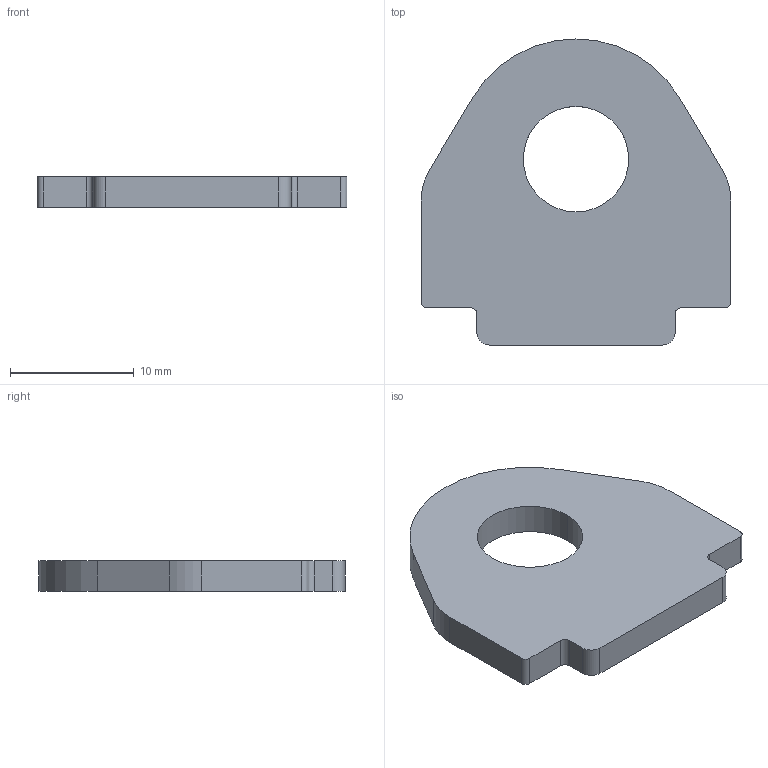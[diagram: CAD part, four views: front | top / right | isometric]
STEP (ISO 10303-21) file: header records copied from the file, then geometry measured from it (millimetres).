
FILE_DESCRIPTION((''),'2;1');
FILE_NAME('284989','2022-10-11T06:27:49',('vmorco'),(''),'CREO PARAMETRIC BY PTC INC, 2020454','CREO PARAMETRIC BY PTC INC, 2020454','');
FILE_SCHEMA(('AUTOMOTIVE_DESIGN { 1 0 10303 214 1 1 1 1 }'));
Length unit declared in the file: millimetre
Products named in the file (1): 284989
Bounding box: 25 x 24.7 x 2.5 mm (x, y, z)
Volume: 1103.6 mm3; surface area: 1163.2 mm2
Topology: 1 solids, 1 shells, 22 faces, 60 edges, 40 vertices
Faces by surface type: plane 11, cylinder 11
Entity records: 781 total; most frequent: DIRECTION 126, CARTESIAN_POINT 124, ORIENTED_EDGE 120, EDGE_CURVE 60, AXIS2_PLACEMENT_3D 44, VERTEX_POINT 40, VECTOR 38, LINE 38
